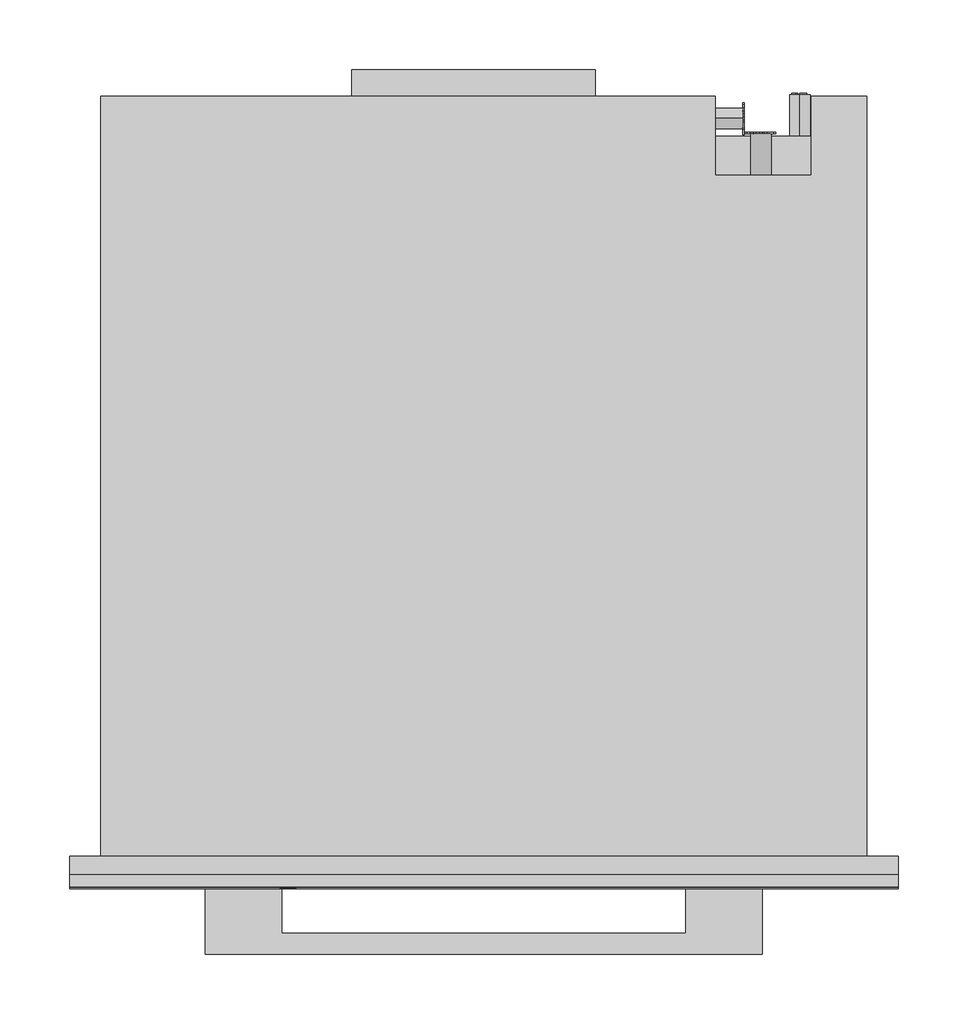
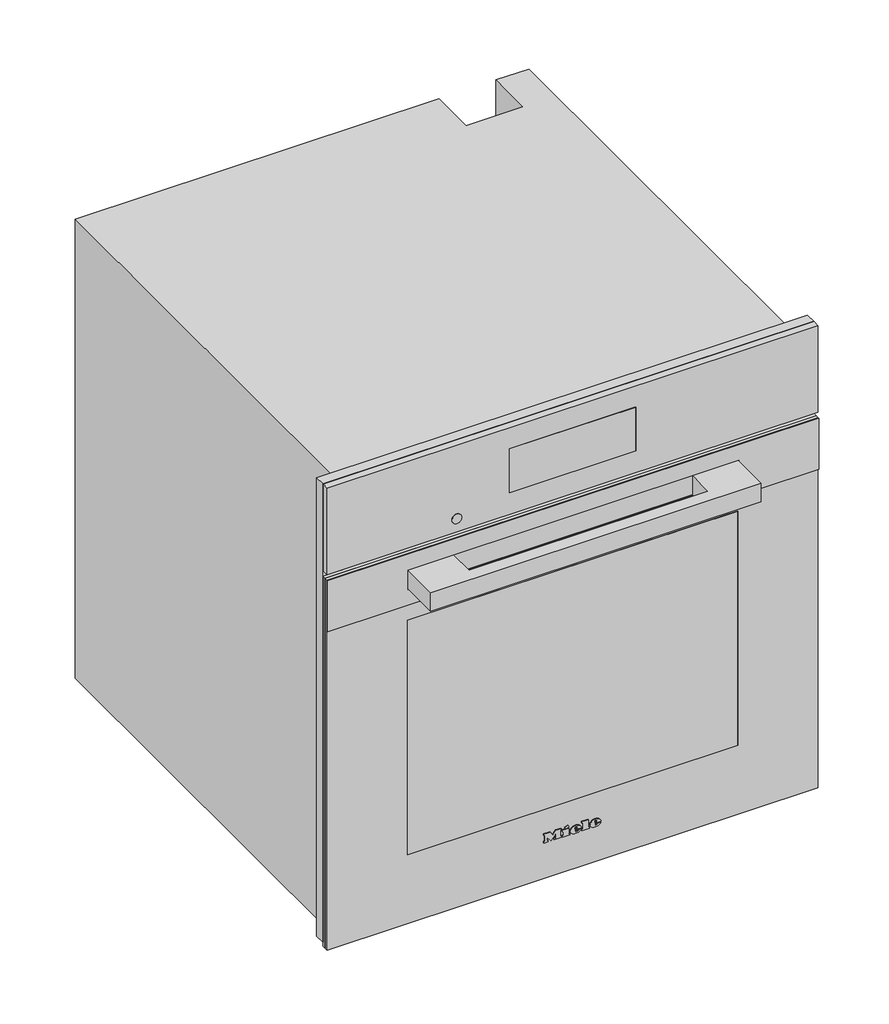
# Not in any storey: 1 proxy.
"""IFC4 building model written with IfcOpenShell, lengths in millimetres."""

from ifc_helpers import new_model, si_unit, origin, place, context, project, spatial, transform, mapped, element, save
from components import specialty_equipment_5517ea6e

model = new_model("IFC4")

# Units and contexts
model_context = context("Model", 3, world=origin())
ifc_project = project(units=[si_unit("LENGTHUNIT", "METRE", prefix="MILLI")], contexts=[model_context])

# Site, building
site = spatial("IfcSite", under=ifc_project)
building = spatial("IfcBuilding", under=site)

# Proxy
placement = place(None, origin())
specialty_equipment_shape = specialty_equipment_5517ea6e(model_context)
element("IfcBuildingElementProxy", 1, Name="11877020_USA_DGC7865_EDST-CLST : 23786543_USA_11877020_DGC7865_EDST-CLST", ObjectType="11877020_USA_DGC7865_EDST-CLST : 23786543_USA_11877020_DGC7865_EDST-CLST", at=placement, inside=building, context=model_context, shape_type="MappedRepresentation", body=[
    mapped(specialty_equipment_shape, transform((0.0, 0.0, 0.0), x_axis=(1.0, 0.0, 0.0), y_axis=(0.0, 1.0, 0.0), z_axis=(0.0, 0.0, 1.0))),
])

save(model, "model.ifc")
